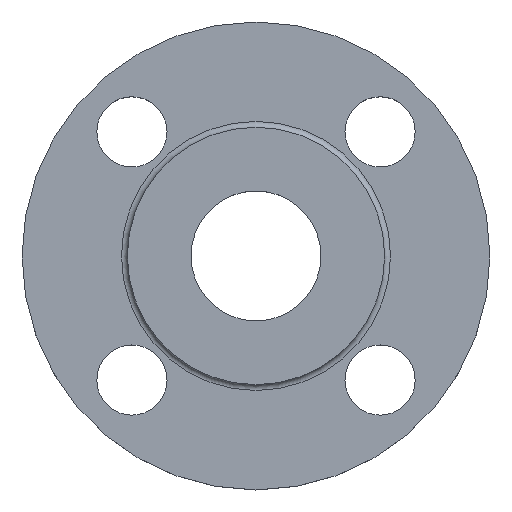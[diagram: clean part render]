
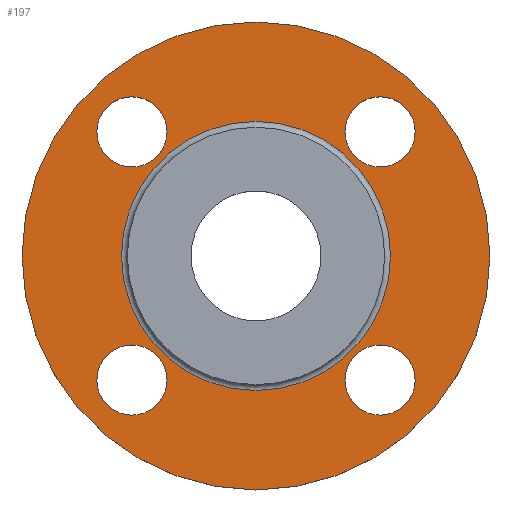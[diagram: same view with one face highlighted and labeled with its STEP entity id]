
A CAD part, top view. The second image highlights one B-rep face of the part: STEP entity #197.
In plain terms, the highlighted planar face has unit normal (0, 0, 1).
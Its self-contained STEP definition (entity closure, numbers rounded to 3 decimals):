
#33=FACE_BOUND('',#59,.T.);
#34=FACE_BOUND('',#60,.T.);
#35=FACE_BOUND('',#61,.T.);
#36=FACE_BOUND('',#62,.T.);
#37=FACE_BOUND('',#63,.T.);
#44=PLANE('',#232);
#48=FACE_OUTER_BOUND('',#58,.T.);
#58=EDGE_LOOP('',(#149,#150));
#59=EDGE_LOOP('',(#151));
#60=EDGE_LOOP('',(#152));
#61=EDGE_LOOP('',(#153));
#62=EDGE_LOOP('',(#154));
#63=EDGE_LOOP('',(#155,#156));
#78=CIRCLE('',#227,23.);
#82=CIRCLE('',#231,23.);
#83=CIRCLE('',#233,40.);
#84=CIRCLE('',#234,40.);
#85=CIRCLE('',#235,6.);
#86=CIRCLE('',#236,6.);
#87=CIRCLE('',#237,6.);
#88=CIRCLE('',#238,6.);
#98=VERTEX_POINT('',#326);
#99=VERTEX_POINT('',#327);
#102=VERTEX_POINT('',#336);
#103=VERTEX_POINT('',#337);
#104=VERTEX_POINT('',#340);
#105=VERTEX_POINT('',#342);
#106=VERTEX_POINT('',#344);
#107=VERTEX_POINT('',#346);
#117=EDGE_CURVE('',#98,#99,#78,.T.);
#121=EDGE_CURVE('',#99,#98,#82,.T.);
#122=EDGE_CURVE('',#102,#103,#83,.T.);
#123=EDGE_CURVE('',#103,#102,#84,.T.);
#124=EDGE_CURVE('',#104,#104,#85,.T.);
#125=EDGE_CURVE('',#105,#105,#86,.T.);
#126=EDGE_CURVE('',#106,#106,#87,.T.);
#127=EDGE_CURVE('',#107,#107,#88,.T.);
#149=ORIENTED_EDGE('',*,*,#122,.F.);
#150=ORIENTED_EDGE('',*,*,#123,.F.);
#151=ORIENTED_EDGE('',*,*,#124,.F.);
#152=ORIENTED_EDGE('',*,*,#125,.F.);
#153=ORIENTED_EDGE('',*,*,#126,.F.);
#154=ORIENTED_EDGE('',*,*,#127,.F.);
#155=ORIENTED_EDGE('',*,*,#117,.F.);
#156=ORIENTED_EDGE('',*,*,#121,.F.);
#197=ADVANCED_FACE('',(#48,#33,#34,#35,#36,#37),#44,.T.);
#227=AXIS2_PLACEMENT_3D('',#328,#260,#261);
#231=AXIS2_PLACEMENT_3D('',#334,#268,#269);
#232=AXIS2_PLACEMENT_3D('',#335,#270,#271);
#233=AXIS2_PLACEMENT_3D('',#338,#272,#273);
#234=AXIS2_PLACEMENT_3D('',#339,#274,#275);
#235=AXIS2_PLACEMENT_3D('',#341,#276,#277);
#236=AXIS2_PLACEMENT_3D('',#343,#278,#279);
#237=AXIS2_PLACEMENT_3D('',#345,#280,#281);
#238=AXIS2_PLACEMENT_3D('',#347,#282,#283);
#260=DIRECTION('center_axis',(0.,0.,1.));
#261=DIRECTION('ref_axis',(-1.,0.,0.));
#268=DIRECTION('center_axis',(0.,0.,1.));
#269=DIRECTION('ref_axis',(-1.,0.,0.));
#270=DIRECTION('center_axis',(0.,0.,1.));
#271=DIRECTION('ref_axis',(1.,0.,0.));
#272=DIRECTION('center_axis',(0.,0.,-1.));
#273=DIRECTION('ref_axis',(1.,0.,0.));
#274=DIRECTION('center_axis',(0.,0.,-1.));
#275=DIRECTION('ref_axis',(1.,0.,0.));
#276=DIRECTION('center_axis',(0.,0.,1.));
#277=DIRECTION('ref_axis',(1.,0.,0.));
#278=DIRECTION('center_axis',(0.,0.,1.));
#279=DIRECTION('ref_axis',(0.,1.,0.));
#280=DIRECTION('center_axis',(0.,0.,1.));
#281=DIRECTION('ref_axis',(-1.,0.,0.));
#282=DIRECTION('center_axis',(0.,0.,1.));
#283=DIRECTION('ref_axis',(0.,-1.,0.));
#326=CARTESIAN_POINT('',(23.,0.,8.));
#327=CARTESIAN_POINT('',(-23.,0.,8.));
#328=CARTESIAN_POINT('Origin',(0.,0.,8.));
#334=CARTESIAN_POINT('Origin',(0.,0.,8.));
#335=CARTESIAN_POINT('Origin',(0.,0.,8.));
#336=CARTESIAN_POINT('',(40.,0.,8.));
#337=CARTESIAN_POINT('',(-40.,0.,8.));
#338=CARTESIAN_POINT('Origin',(0.,0.,8.));
#339=CARTESIAN_POINT('Origin',(0.,0.,8.));
#340=CARTESIAN_POINT('',(-27.213,21.213,8.));
#341=CARTESIAN_POINT('Origin',(-21.213,21.213,8.));
#342=CARTESIAN_POINT('',(-21.213,-27.213,8.));
#343=CARTESIAN_POINT('Origin',(-21.213,-21.213,8.));
#344=CARTESIAN_POINT('',(27.213,-21.213,8.));
#345=CARTESIAN_POINT('Origin',(21.213,-21.213,8.));
#346=CARTESIAN_POINT('',(21.213,27.213,8.));
#347=CARTESIAN_POINT('Origin',(21.213,21.213,8.));
